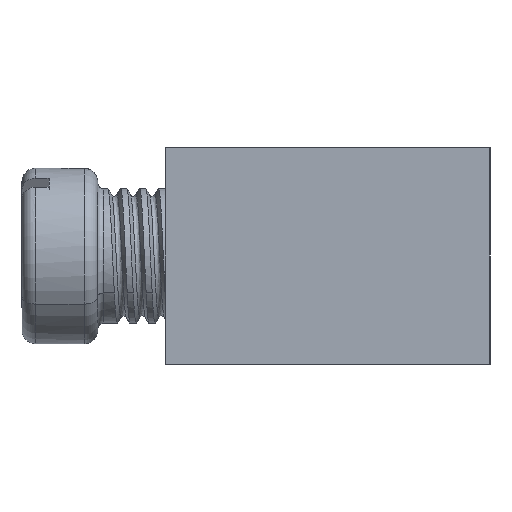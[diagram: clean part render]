
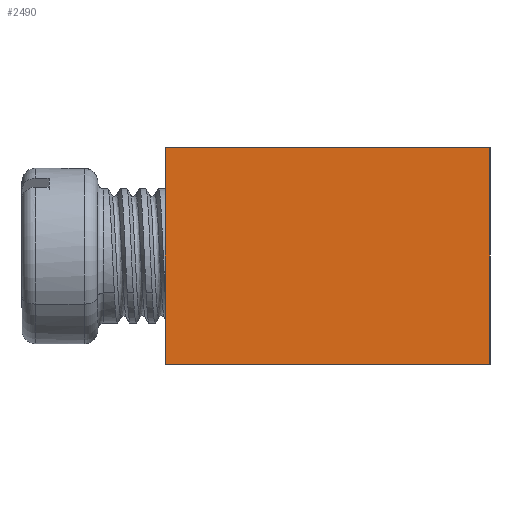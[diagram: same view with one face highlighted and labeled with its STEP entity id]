
A CAD part, left-side view. The second image highlights one B-rep face of the part: STEP entity #2490.
In plain terms, the highlighted planar face has unit normal (-1, 0, 0).
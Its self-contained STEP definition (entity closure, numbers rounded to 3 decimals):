
#158 = EDGE_CURVE ( 'NONE', #4381, #4131, #5642, .T. ) ;
#421 = LINE ( 'NONE', #5489, #5219 ) ;
#513 = DIRECTION ( 'NONE',  ( 0., -1., 0. ) ) ;
#520 = ORIENTED_EDGE ( 'NONE', *, *, #3254, .T. ) ;
#697 = VERTEX_POINT ( 'NONE', #2841 ) ;
#749 = VERTEX_POINT ( 'NONE', #4218 ) ;
#840 = ORIENTED_EDGE ( 'NONE', *, *, #1566, .T. ) ;
#1566 = EDGE_CURVE ( 'NONE', #749, #4131, #4663, .T. ) ;
#1767 = DIRECTION ( 'NONE',  ( 0., 0., 1. ) ) ;
#1833 = ORIENTED_EDGE ( 'NONE', *, *, #158, .F. ) ;
#1895 = CARTESIAN_POINT ( 'NONE',  ( 0., 0., 0. ) ) ;
#2244 = FACE_OUTER_BOUND ( 'NONE', #5281, .T. ) ;
#2453 = DIRECTION ( 'NONE',  ( -1., 0., 0. ) ) ;
#2490 = ADVANCED_FACE ( 'NONE', ( #2244 ), #4778, .T. ) ;
#2508 = ORIENTED_EDGE ( 'NONE', *, *, #4618, .F. ) ;
#2514 = AXIS2_PLACEMENT_3D ( 'NONE', #5246, #2453, #5692 ) ;
#2686 = VECTOR ( 'NONE', #4074, 1000. ) ;
#2841 = CARTESIAN_POINT ( 'NONE',  ( 0., 12., -8. ) ) ;
#3254 = EDGE_CURVE ( 'NONE', #697, #749, #4081, .T. ) ;
#3575 = CARTESIAN_POINT ( 'NONE',  ( 0., 0., -8. ) ) ;
#4074 = DIRECTION ( 'NONE',  ( 0., -1., 0. ) ) ;
#4081 = LINE ( 'NONE', #3575, #2686 ) ;
#4131 = VERTEX_POINT ( 'NONE', #4674 ) ;
#4218 = CARTESIAN_POINT ( 'NONE',  ( 0., 0., -8. ) ) ;
#4381 = VERTEX_POINT ( 'NONE', #5702 ) ;
#4533 = VECTOR ( 'NONE', #1767, 1000. ) ;
#4618 = EDGE_CURVE ( 'NONE', #697, #4381, #421, .T. ) ;
#4663 = LINE ( 'NONE', #5436, #4533 ) ;
#4674 = CARTESIAN_POINT ( 'NONE',  ( 0., 0., 0. ) ) ;
#4778 = PLANE ( 'NONE',  #2514 ) ;
#5219 = VECTOR ( 'NONE', #5944, 1000. ) ;
#5246 = CARTESIAN_POINT ( 'NONE',  ( 0., 0., -8. ) ) ;
#5281 = EDGE_LOOP ( 'NONE', ( #1833, #2508, #520, #840 ) ) ;
#5436 = CARTESIAN_POINT ( 'NONE',  ( 0., 0., -8. ) ) ;
#5489 = CARTESIAN_POINT ( 'NONE',  ( 0., 12., -8. ) ) ;
#5507 = VECTOR ( 'NONE', #513, 1000. ) ;
#5642 = LINE ( 'NONE', #1895, #5507 ) ;
#5692 = DIRECTION ( 'NONE',  ( 0., 0., 1. ) ) ;
#5702 = CARTESIAN_POINT ( 'NONE',  ( 0., 12., 0. ) ) ;
#5944 = DIRECTION ( 'NONE',  ( 0., 0., 1. ) ) ;
